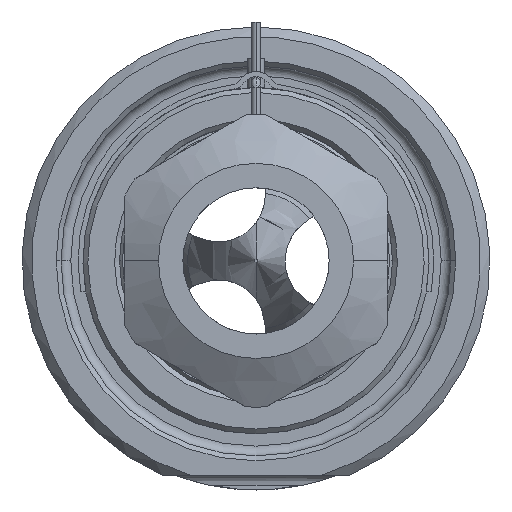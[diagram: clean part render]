
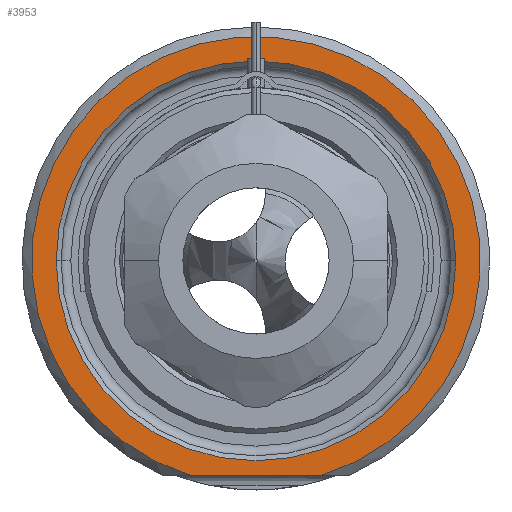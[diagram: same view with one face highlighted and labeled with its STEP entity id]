
A CAD part, front view. The second image highlights one B-rep face of the part: STEP entity #3953.
In plain terms, the highlighted planar face has unit normal (0, -1, 0).
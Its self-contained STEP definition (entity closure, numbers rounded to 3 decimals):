
#1=DIRECTION('',(1.,0.,0.));
#2=VECTOR('',#1,13.416);
#3=CARTESIAN_POINT('',(-6.708,0.,-22.));
#4=LINE('',#3,#2);
#5=CARTESIAN_POINT('',(0.,0.,0.));
#6=DIRECTION('',(0.,1.,0.));
#7=DIRECTION('',(-1.,0.,0.));
#8=AXIS2_PLACEMENT_3D('',#5,#6,#7);
#10=CARTESIAN_POINT('',(0.,0.,0.));
#11=DIRECTION('',(0.,1.,0.));
#12=DIRECTION('',(1.,0.,0.));
#13=AXIS2_PLACEMENT_3D('',#10,#11,#12);
#121=CARTESIAN_POINT('',(0.,0.,0.));
#122=DIRECTION('',(0.,-1.,0.));
#123=DIRECTION('',(0.292,0.,-0.957));
#124=AXIS2_PLACEMENT_3D('',#121,#122,#123);
#3338=CARTESIAN_POINT('',(-20.5,0.,0.));
#3339=CARTESIAN_POINT('',(20.5,0.,0.));
#3340=VERTEX_POINT('',#3338);
#3341=VERTEX_POINT('',#3339);
#3378=CARTESIAN_POINT('',(-6.708,0.,-22.));
#3379=CARTESIAN_POINT('',(6.708,0.,-22.));
#3380=VERTEX_POINT('',#3378);
#3381=VERTEX_POINT('',#3379);
#3936=CARTESIAN_POINT('',(0.,0.,0.));
#3937=DIRECTION('',(0.,-1.,0.));
#3938=DIRECTION('',(1.,0.,0.));
#3939=AXIS2_PLACEMENT_3D('',#3936,#3937,#3938);
#3940=PLANE('',#3939);
#3942=ORIENTED_EDGE('',*,*,#3941,.F.);
#3944=ORIENTED_EDGE('',*,*,#3943,.F.);
#3945=EDGE_LOOP('',(#3942,#3944));
#3946=FACE_OUTER_BOUND('',#3945,.F.);
#3948=ORIENTED_EDGE('',*,*,#3947,.F.);
#3950=ORIENTED_EDGE('',*,*,#3949,.F.);
#3951=EDGE_LOOP('',(#3948,#3950));
#3952=FACE_BOUND('',#3951,.F.);
#3953=ADVANCED_FACE('',(#3946,#3952),#3940,.T.);
#9=CIRCLE('',#8,20.5);
#14=CIRCLE('',#13,20.5);
#125=CIRCLE('',#124,23.);
#3941=EDGE_CURVE('',#3380,#3381,#4,.T.);
#3943=EDGE_CURVE('',#3381,#3380,#125,.T.);
#3947=EDGE_CURVE('',#3340,#3341,#9,.T.);
#3949=EDGE_CURVE('',#3341,#3340,#14,.T.);
